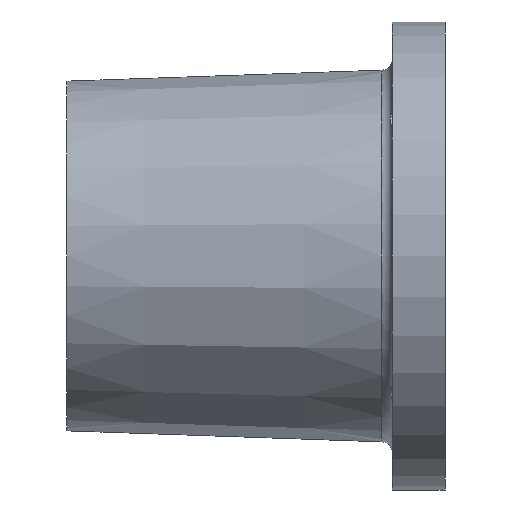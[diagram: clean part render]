
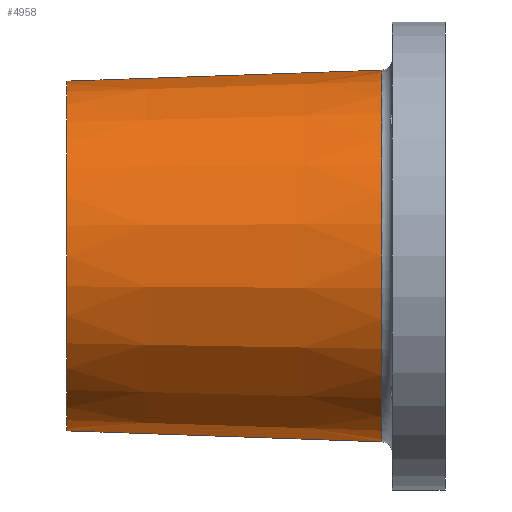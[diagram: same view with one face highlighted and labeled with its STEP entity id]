
A CAD part, left-side view. The second image highlights one B-rep face of the part: STEP entity #4958.
In plain terms, the highlighted conical face has half-angle 2 degrees and reference radius 71.141 mm.
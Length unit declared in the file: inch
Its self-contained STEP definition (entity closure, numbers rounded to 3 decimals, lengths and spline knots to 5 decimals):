
#68 = DIRECTION ( 'NONE',  ( 0., 1., 0. ) ) ;
#279 = DIRECTION ( 'NONE',  ( 0., -0.999, -0.035 ) ) ;
#870 = VERTEX_POINT ( 'NONE', #4325 ) ;
#1049 = CARTESIAN_POINT ( 'NONE',  ( 0., 1.01772, 0. ) ) ;
#1220 = ORIENTED_EDGE ( 'NONE', *, *, #6102, .T. ) ;
#1429 = CARTESIAN_POINT ( 'NONE',  ( 0., 6.06, 2.80185 ) ) ;
#1560 = CARTESIAN_POINT ( 'NONE',  ( 0., 1.01772, -2.97793 ) ) ;
#1580 = DIRECTION ( 'NONE',  ( 0., 0., -1. ) ) ;
#1820 = CARTESIAN_POINT ( 'NONE',  ( 0., 6.089, -2.80084 ) ) ;
#1860 = ORIENTED_EDGE ( 'NONE', *, *, #6794, .T. ) ;
#2200 = ORIENTED_EDGE ( 'NONE', *, *, #6703, .F. ) ;
#2222 = CIRCLE ( 'NONE', #2753, 2.80185 ) ;
#2383 = CARTESIAN_POINT ( 'NONE',  ( 0., 6.089, 0. ) ) ;
#2753 = AXIS2_PLACEMENT_3D ( 'NONE', #3234, #68, #3780 ) ;
#2982 = ORIENTED_EDGE ( 'NONE', *, *, #6637, .F. ) ;
#3009 = VERTEX_POINT ( 'NONE', #1429 ) ;
#3234 = CARTESIAN_POINT ( 'NONE',  ( 0., 6.06, 0. ) ) ;
#3256 = VECTOR ( 'NONE', #279, 39.37008 ) ;
#3284 = AXIS2_PLACEMENT_3D ( 'NONE', #1049, #4702, #1580 ) ;
#3445 = LINE ( 'NONE', #1820, #3256 ) ;
#3504 = CONICAL_SURFACE ( 'NONE', #3861, 2.80084, 0.035 ) ;
#3607 = LINE ( 'NONE', #4474, #4829 ) ;
#3780 = DIRECTION ( 'NONE',  ( 0., 0., 1. ) ) ;
#3861 = AXIS2_PLACEMENT_3D ( 'NONE', #2383, #6135, #5025 ) ;
#4325 = CARTESIAN_POINT ( 'NONE',  ( 0., 6.06, -2.80185 ) ) ;
#4474 = CARTESIAN_POINT ( 'NONE',  ( 0., 6.089, 2.80084 ) ) ;
#4702 = DIRECTION ( 'NONE',  ( 0., 1., 0. ) ) ;
#4829 = VECTOR ( 'NONE', #5007, 39.37008 ) ;
#4958 = ADVANCED_FACE ( 'NONE', ( #5077 ), #3504, .T. ) ;
#5007 = DIRECTION ( 'NONE',  ( 0., -0.999, 0.035 ) ) ;
#5025 = DIRECTION ( 'NONE',  ( 0., 0., -1. ) ) ;
#5069 = CARTESIAN_POINT ( 'NONE',  ( 0., 1.01772, 2.97793 ) ) ;
#5077 = FACE_OUTER_BOUND ( 'NONE', #5298, .T. ) ;
#5298 = EDGE_LOOP ( 'NONE', ( #2200, #2982, #1860, #1220 ) ) ;
#5354 = CIRCLE ( 'NONE', #3284, 2.97793 ) ;
#5487 = VERTEX_POINT ( 'NONE', #1560 ) ;
#6102 = EDGE_CURVE ( 'NONE', #5487, #6531, #5354, .T. ) ;
#6135 = DIRECTION ( 'NONE',  ( 0., -1., 0. ) ) ;
#6531 = VERTEX_POINT ( 'NONE', #5069 ) ;
#6637 = EDGE_CURVE ( 'NONE', #870, #3009, #2222, .T. ) ;
#6703 = EDGE_CURVE ( 'NONE', #3009, #6531, #3607, .T. ) ;
#6794 = EDGE_CURVE ( 'NONE', #870, #5487, #3445, .T. ) ;
